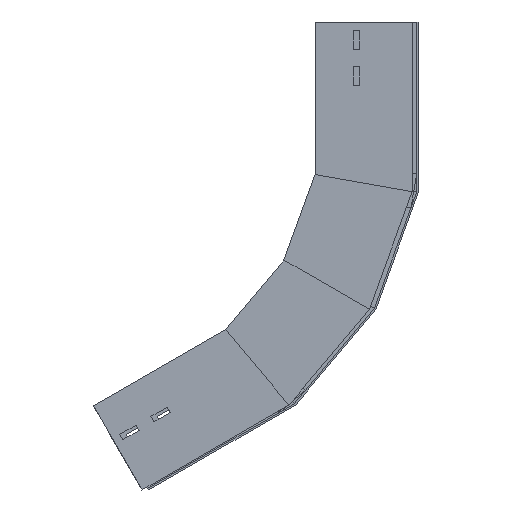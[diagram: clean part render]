
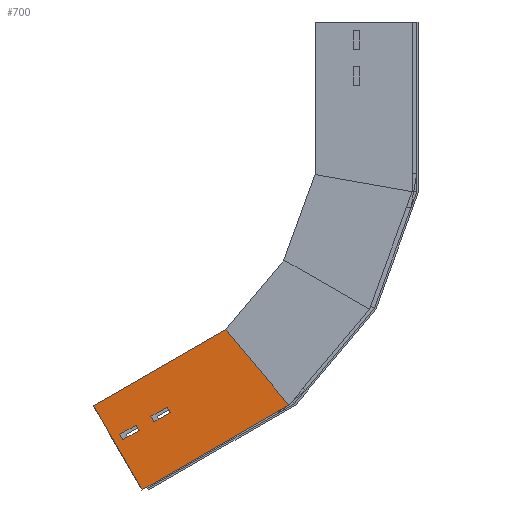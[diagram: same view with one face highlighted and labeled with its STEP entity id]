
A CAD part, left-side view. The second image highlights one B-rep face of the part: STEP entity #700.
In plain terms, the highlighted planar face has unit normal (-1, 0, 0) as drawn and (1, 0, 0) by its records, which use the part's own axes.
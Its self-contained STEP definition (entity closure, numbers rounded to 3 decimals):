
#1 = LINE ( 'NONE', #1288, #1166 ) ;
#3 = FACE_OUTER_BOUND ( 'NONE', #1079, .T. ) ;
#11 = DIRECTION ( 'NONE',  ( 0., 1., 0. ) ) ;
#72 = EDGE_CURVE ( 'NONE', #775, #1217, #362, .T. ) ;
#109 = CARTESIAN_POINT ( 'NONE',  ( 0., 112.5, 0. ) ) ;
#111 = CARTESIAN_POINT ( 'NONE',  ( 0., 68.5, -9.835 ) ) ;
#149 = DIRECTION ( 'NONE',  ( 0., -1., 0. ) ) ;
#154 = CARTESIAN_POINT ( 'NONE',  ( 0., 68.5, -51.505 ) ) ;
#164 = ORIENTED_EDGE ( 'NONE', *, *, #1511, .F. ) ;
#180 = ORIENTED_EDGE ( 'NONE', *, *, #1371, .T. ) ;
#214 = LINE ( 'NONE', #230, #323 ) ;
#216 = VECTOR ( 'NONE', #1246, 1000. ) ;
#225 = EDGE_CURVE ( 'NONE', #1217, #493, #591, .T. ) ;
#230 = CARTESIAN_POINT ( 'NONE',  ( 0., 61.5, -9.835 ) ) ;
#269 = EDGE_LOOP ( 'NONE', ( #774, #1186, #1664, #1477 ) ) ;
#270 = VERTEX_POINT ( 'NONE', #777 ) ;
#272 = VECTOR ( 'NONE', #1180, 1000. ) ;
#308 = ORIENTED_EDGE ( 'NONE', *, *, #945, .T. ) ;
#323 = VECTOR ( 'NONE', #592, 1000. ) ;
#332 = CARTESIAN_POINT ( 'NONE',  ( 0., 0., -196.6 ) ) ;
#362 = LINE ( 'NONE', #111, #1589 ) ;
#368 = VERTEX_POINT ( 'NONE', #109 ) ;
#376 = EDGE_CURVE ( 'NONE', #829, #270, #1138, .T. ) ;
#388 = VECTOR ( 'NONE', #1265, 1000. ) ;
#411 = DIRECTION ( 'NONE',  ( -1., 0., 0. ) ) ;
#415 = VECTOR ( 'NONE', #1507, 1000. ) ;
#417 = AXIS2_PLACEMENT_3D ( 'NONE', #1054, #411, #539 ) ;
#433 = EDGE_LOOP ( 'NONE', ( #524, #643, #308, #180 ) ) ;
#469 = VERTEX_POINT ( 'NONE', #1353 ) ;
#493 = VERTEX_POINT ( 'NONE', #1483 ) ;
#510 = CARTESIAN_POINT ( 'NONE',  ( 0., 0., 0. ) ) ;
#524 = ORIENTED_EDGE ( 'NONE', *, *, #72, .T. ) ;
#539 = DIRECTION ( 'NONE',  ( 0., 0., 1. ) ) ;
#562 = VERTEX_POINT ( 'NONE', #1274 ) ;
#591 = LINE ( 'NONE', #1112, #1612 ) ;
#592 = DIRECTION ( 'NONE',  ( 0., 0., 1. ) ) ;
#630 = EDGE_CURVE ( 'NONE', #1471, #978, #749, .T. ) ;
#643 = ORIENTED_EDGE ( 'NONE', *, *, #225, .T. ) ;
#649 = FACE_BOUND ( 'NONE', #269, .T. ) ;
#700 = ADVANCED_FACE ( 'NONE', ( #649, #3, #1419 ), #1171, .F. ) ;
#749 = LINE ( 'NONE', #1018, #388 ) ;
#774 = ORIENTED_EDGE ( 'NONE', *, *, #1101, .T. ) ;
#775 = VERTEX_POINT ( 'NONE', #898 ) ;
#777 = CARTESIAN_POINT ( 'NONE',  ( 0., 61.5, -51.505 ) ) ;
#780 = EDGE_CURVE ( 'NONE', #469, #829, #1305, .T. ) ;
#829 = VERTEX_POINT ( 'NONE', #1208 ) ;
#853 = DIRECTION ( 'NONE',  ( 0., 0., 1. ) ) ;
#870 = LINE ( 'NONE', #1633, #216 ) ;
#898 = CARTESIAN_POINT ( 'NONE',  ( 0., 61.5, -9.835 ) ) ;
#903 = DIRECTION ( 'NONE',  ( 0., 0., -1. ) ) ;
#926 = CARTESIAN_POINT ( 'NONE',  ( 0., 68.5, -73.505 ) ) ;
#927 = VECTOR ( 'NONE', #903, 1000. ) ;
#945 = EDGE_CURVE ( 'NONE', #493, #562, #870, .T. ) ;
#978 = VERTEX_POINT ( 'NONE', #332 ) ;
#1018 = CARTESIAN_POINT ( 'NONE',  ( 0., 33.621, -190.672 ) ) ;
#1051 = EDGE_CURVE ( 'NONE', #1528, #368, #1, .T. ) ;
#1054 = CARTESIAN_POINT ( 'NONE',  ( 0., 0., 0. ) ) ;
#1079 = EDGE_LOOP ( 'NONE', ( #164, #1242, #1349, #1449 ) ) ;
#1081 = CARTESIAN_POINT ( 'NONE',  ( 0., 61.5, -51.505 ) ) ;
#1101 = EDGE_CURVE ( 'NONE', #270, #1447, #1295, .T. ) ;
#1112 = CARTESIAN_POINT ( 'NONE',  ( 0., 68.5, -9.835 ) ) ;
#1138 = LINE ( 'NONE', #1081, #1336 ) ;
#1158 = LINE ( 'NONE', #1422, #927 ) ;
#1166 = VECTOR ( 'NONE', #1556, 1000. ) ;
#1171 = PLANE ( 'NONE',  #417 ) ;
#1180 = DIRECTION ( 'NONE',  ( 0., 0., -1. ) ) ;
#1186 = ORIENTED_EDGE ( 'NONE', *, *, #1504, .T. ) ;
#1202 = VECTOR ( 'NONE', #149, 1000. ) ;
#1208 = CARTESIAN_POINT ( 'NONE',  ( 0., 61.5, -73.505 ) ) ;
#1217 = VERTEX_POINT ( 'NONE', #1453 ) ;
#1242 = ORIENTED_EDGE ( 'NONE', *, *, #1051, .F. ) ;
#1246 = DIRECTION ( 'NONE',  ( 0., -1., 0. ) ) ;
#1265 = DIRECTION ( 'NONE',  ( 0., -0.985, -0.174 ) ) ;
#1271 = CARTESIAN_POINT ( 'NONE',  ( 0., 0., 0. ) ) ;
#1274 = CARTESIAN_POINT ( 'NONE',  ( 0., 61.5, -31.835 ) ) ;
#1288 = CARTESIAN_POINT ( 'NONE',  ( 0., 0., 0. ) ) ;
#1295 = LINE ( 'NONE', #1572, #1384 ) ;
#1305 = LINE ( 'NONE', #926, #1202 ) ;
#1336 = VECTOR ( 'NONE', #853, 1000. ) ;
#1341 = EDGE_CURVE ( 'NONE', #1528, #978, #1648, .T. ) ;
#1349 = ORIENTED_EDGE ( 'NONE', *, *, #1341, .T. ) ;
#1353 = CARTESIAN_POINT ( 'NONE',  ( 0., 68.5, -73.505 ) ) ;
#1371 = EDGE_CURVE ( 'NONE', #562, #775, #214, .T. ) ;
#1384 = VECTOR ( 'NONE', #1417, 1000. ) ;
#1417 = DIRECTION ( 'NONE',  ( 0., 1., 0. ) ) ;
#1419 = FACE_BOUND ( 'NONE', #433, .T. ) ;
#1422 = CARTESIAN_POINT ( 'NONE',  ( 0., 112.5, 0. ) ) ;
#1440 = CARTESIAN_POINT ( 'NONE',  ( 0., 68.5, -51.505 ) ) ;
#1447 = VERTEX_POINT ( 'NONE', #1440 ) ;
#1449 = ORIENTED_EDGE ( 'NONE', *, *, #630, .F. ) ;
#1453 = CARTESIAN_POINT ( 'NONE',  ( 0., 68.5, -9.835 ) ) ;
#1471 = VERTEX_POINT ( 'NONE', #1553 ) ;
#1477 = ORIENTED_EDGE ( 'NONE', *, *, #376, .T. ) ;
#1483 = CARTESIAN_POINT ( 'NONE',  ( 0., 68.5, -31.835 ) ) ;
#1504 = EDGE_CURVE ( 'NONE', #1447, #469, #1679, .T. ) ;
#1507 = DIRECTION ( 'NONE',  ( 0., 0., -1. ) ) ;
#1511 = EDGE_CURVE ( 'NONE', #368, #1471, #1158, .T. ) ;
#1528 = VERTEX_POINT ( 'NONE', #510 ) ;
#1553 = CARTESIAN_POINT ( 'NONE',  ( 0., 112.5, -176.763 ) ) ;
#1556 = DIRECTION ( 'NONE',  ( 0., 1., 0. ) ) ;
#1572 = CARTESIAN_POINT ( 'NONE',  ( 0., 68.5, -51.505 ) ) ;
#1589 = VECTOR ( 'NONE', #11, 1000. ) ;
#1612 = VECTOR ( 'NONE', #1639, 1000. ) ;
#1633 = CARTESIAN_POINT ( 'NONE',  ( 0., 68.5, -31.835 ) ) ;
#1639 = DIRECTION ( 'NONE',  ( 0., 0., -1. ) ) ;
#1648 = LINE ( 'NONE', #1271, #415 ) ;
#1664 = ORIENTED_EDGE ( 'NONE', *, *, #780, .T. ) ;
#1679 = LINE ( 'NONE', #154, #272 ) ;
